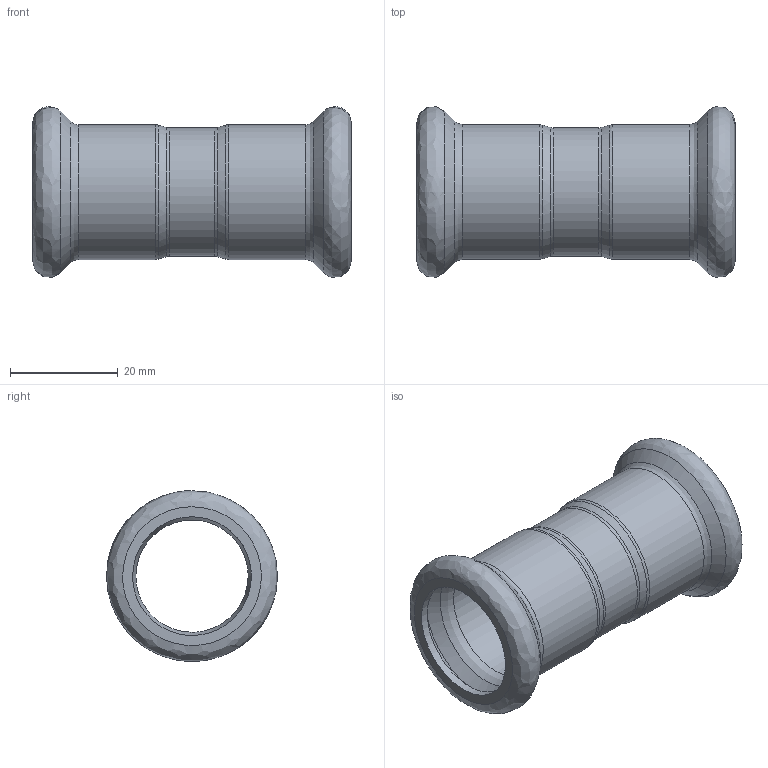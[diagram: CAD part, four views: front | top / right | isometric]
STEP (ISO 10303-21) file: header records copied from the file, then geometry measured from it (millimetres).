
FILE_DESCRIPTION(('FreeCAD Model'),'2;1');
FILE_NAME('Open CASCADE Shape Model','2025-10-20T15:02:42',('Author'),( ''),'Open CASCADE STEP processor 7.8','FreeCAD','Unknown');
FILE_SCHEMA(('AUTOMOTIVE_DESIGN { 1 0 10303 214 1 1 1 1 }'));
Length unit declared in the file: millimetre
Products named in the file (1): Solido1
Bounding box: 59 x 31.58 x 31.64 mm (x, y, z)
Volume: 7641.8 mm3; surface area: 10430.5 mm2
Topology: 1 solids, 1 shells, 32 faces, 114 edges, 86 vertices
Faces by surface type: bspline 32
Entity records: 1794 total; most frequent: CARTESIAN_POINT 1205, ORIENTED_EDGE 228, EDGE_CURVE 114, VERTEX_POINT 86, FACE_BOUND 36, EDGE_LOOP 36, ADVANCED_FACE 32, B_SPLINE_CURVE_WITH_KNOTS 16
